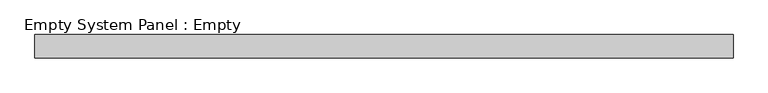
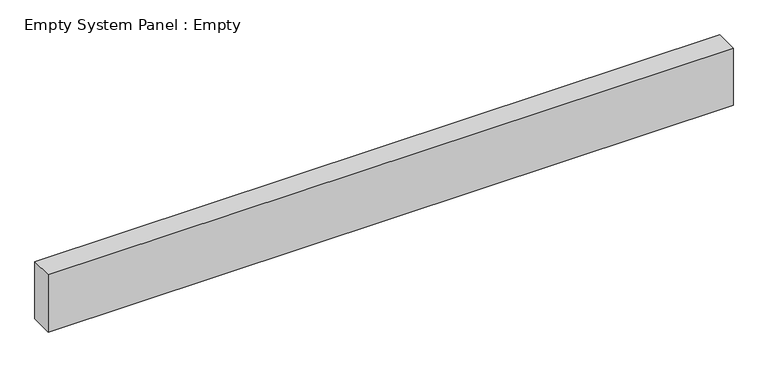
"""IFC4 building model written with IfcOpenShell, lengths in millimetres: plate geometry, Empty System Panel : Empty."""

from ifc_helpers import new_model, si_unit, origin, origin_with_axes, place, context, project, spatial, polyline, outline, extrude, source, transform, mapped, element, save


def empty_system_panel_empty_bd2bff59(model_context):
    return source(origin(), model_context, "Body", "SweptSolid", [
        extrude(outline(polyline([(1500.0, -50.0), (-1500.0, -50.0), (-1500.0, 50.0), (1500.0, 50.0), (1500.0, -50.0)])), origin_with_axes(), (0.0, 0.0, 1.0), 264.6446609),
    ])


if __name__ == "__main__":
    model = new_model("IFC4")
    model_context = context("Model", 3, world=origin())
    ifc_project = project(units=[si_unit("LENGTHUNIT", "METRE", prefix="MILLI")], contexts=[model_context])
    site = spatial("IfcSite", under=ifc_project)
    building = spatial("IfcBuilding", under=site)
    placement = place(None, origin())
    empty_system_panel_empty_shape = empty_system_panel_empty_bd2bff59(model_context)
    element("IfcPlate", 1, ObjectType="Empty System Panel : Empty", at=placement, inside=building, context=model_context, shape_type="MappedRepresentation", body=[
        mapped(empty_system_panel_empty_shape, transform((0.0, 0.0, 0.0), x_axis=(1.0, 0.0, 0.0), y_axis=(0.0, 1.0, 0.0), z_axis=(0.0, 0.0, 1.0))),
    ])
    save(model, "model.ifc")
